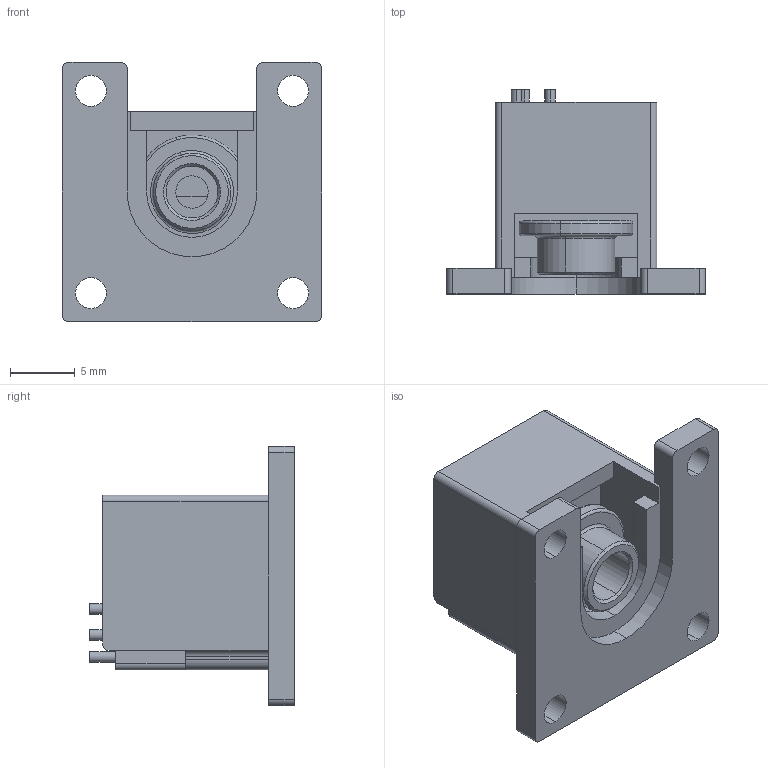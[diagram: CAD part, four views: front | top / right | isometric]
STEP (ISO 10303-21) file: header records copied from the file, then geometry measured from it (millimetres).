
FILE_DESCRIPTION (( 'STEP AP203' ), '1' );
FILE_NAME ('SROA20耀倰-俋楷2.STEP', '2022-05-27T06:52:18', ( '' ), ( '' ), 'SwSTEP 2.0', 'SolidWorks 2016', '' );
FILE_SCHEMA (( 'CONFIG_CONTROL_DESIGN' ));
Length unit declared in the file: millimetre
Products named in the file (1): SROA20耀倰-俋楷2
Bounding box: 20 x 15.8 x 20 mm (x, y, z)
Volume: 1897.3 mm3; surface area: 2647.5 mm2
Topology: 3 solids, 3 shells, 130 faces, 338 edges, 220 vertices
Faces by surface type: plane 64, cylinder 50, torus 10, cone 6
Entity records: 4099 total; most frequent: DIRECTION 728, CARTESIAN_POINT 689, ORIENTED_EDGE 676, EDGE_CURVE 338, AXIS2_PLACEMENT_3D 259, VERTEX_POINT 220, LINE 210, VECTOR 210
